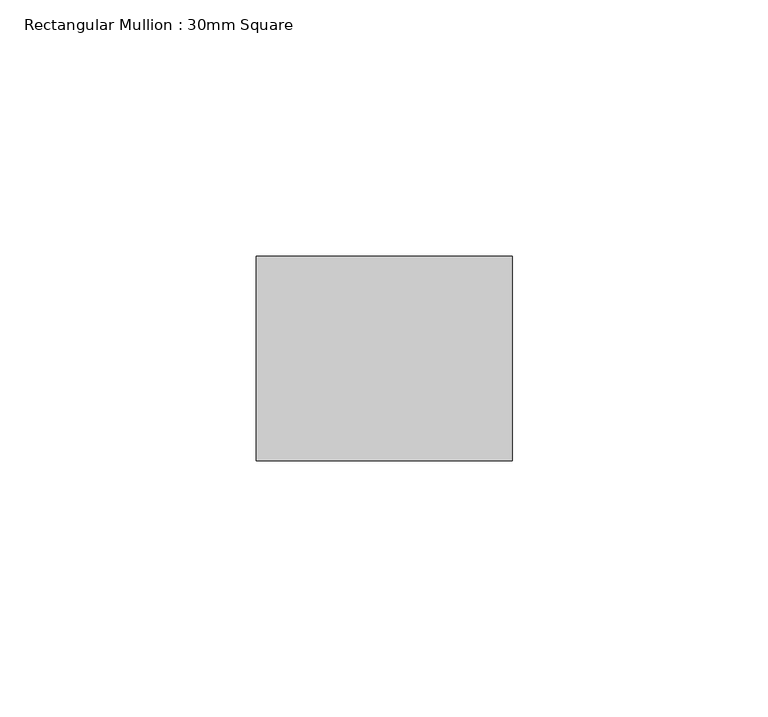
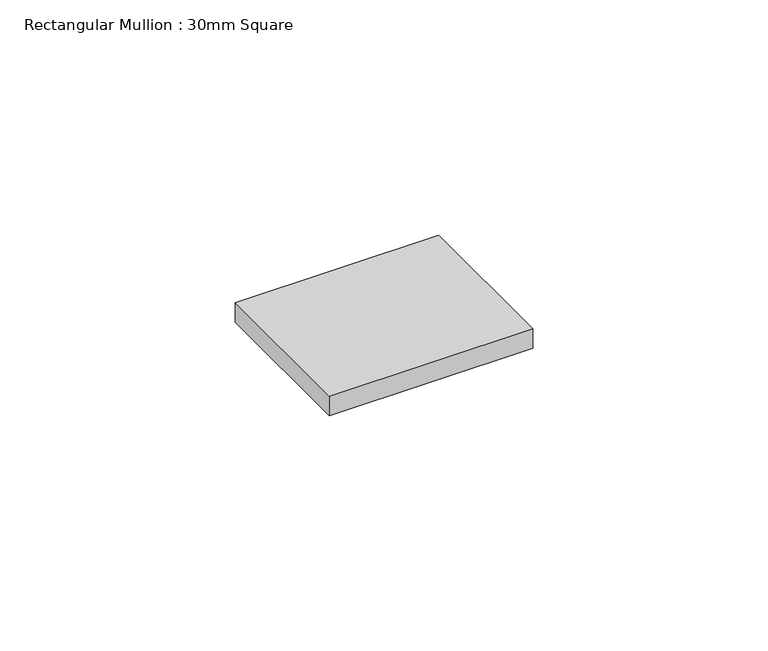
"""IFC4 building model written with IfcOpenShell, lengths in millimetres: member geometry, Rectangular Mullion : 30mm Square."""

from ifc_helpers import new_model, si_unit, frame, origin, place, context, project, spatial, polyline, outline, extrude, source, transform, mapped, element, save


def rectangular_mullion_30mm_square_57db9ed4(model_context):
    return source(origin(), model_context, "Body", "SweptSolid", [
        extrude(outline(polyline([(25.0, 20.0), (25.0, -20.0), (-25.0, -20.0), (-25.0, 20.0), (25.0, 20.0)])), frame((0.0, 0.0, -5.0662338), z_axis=(0.0, 0.0, 1.0), x_axis=(1.0, 0.0, 0.0)), (0.0, 0.0, 1.0), 5.0662338),
    ])


if __name__ == "__main__":
    model = new_model("IFC4")
    model_context = context("Model", 3, world=origin())
    ifc_project = project(units=[si_unit("LENGTHUNIT", "METRE", prefix="MILLI")], contexts=[model_context])
    site = spatial("IfcSite", under=ifc_project)
    building = spatial("IfcBuilding", under=site)
    placement = place(None, origin())
    rectangular_mullion_30mm_square_shape = rectangular_mullion_30mm_square_57db9ed4(model_context)
    element("IfcMember", 1, ObjectType="Rectangular Mullion : 30mm Square", at=placement, inside=building, context=model_context, shape_type="MappedRepresentation", body=[
        mapped(rectangular_mullion_30mm_square_shape, transform((0.0, 0.0, 0.0), x_axis=(1.0, 0.0, 0.0), y_axis=(0.0, 1.0, 0.0), z_axis=(0.0, 0.0, 1.0))),
    ])
    save(model, "model.ifc")
